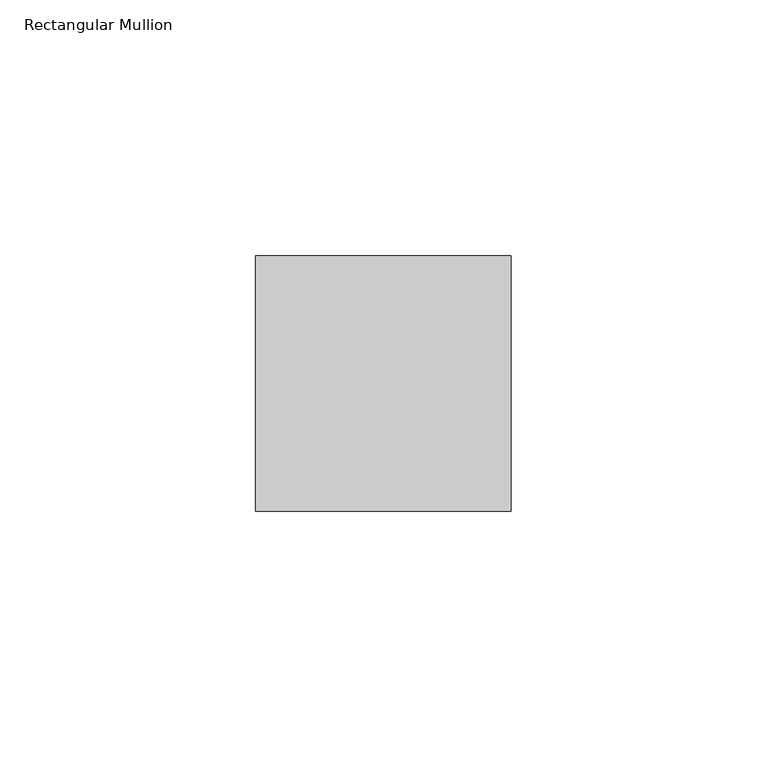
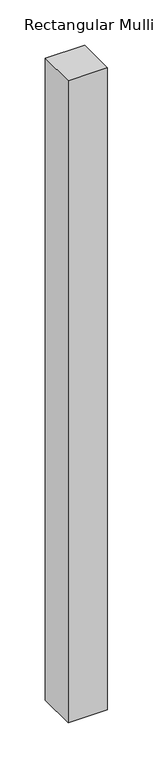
"""IFC4 building model written with IfcOpenShell, lengths in millimetres: member geometry, Rectangular Mullion : Mullion_Curtain Wall_Generic Showcase_50x50mm."""

from ifc_helpers import new_model, si_unit, frame, origin, place, context, project, spatial, polyline, outline, extrude, source, transform, mapped, element, save


def rectangular_mullion_6a6b7c83(model_context):
    return source(origin(), model_context, "Body", "SweptSolid", [
        extrude(outline(polyline([(0.0, 50.0), (0.0, 0.0), (-50.0, 0.0), (-50.0, 50.0), (0.0, 50.0)])), frame((0.0, 0.0, -862.5), z_axis=(0.0, 0.0, 1.0), x_axis=(1.0, 0.0, 0.0)), (0.0, 0.0, 1.0), 862.5),
    ])


if __name__ == "__main__":
    model = new_model("IFC4")
    model_context = context("Model", 3, world=origin())
    ifc_project = project(units=[si_unit("LENGTHUNIT", "METRE", prefix="MILLI")], contexts=[model_context])
    site = spatial("IfcSite", under=ifc_project)
    building = spatial("IfcBuilding", under=site)
    placement = place(None, origin())
    rectangular_mullion_shape = rectangular_mullion_6a6b7c83(model_context)
    element("IfcMember", 1, ObjectType="Rectangular Mullion : Mullion_Curtain Wall_Generic Showcase_50x50mm", at=placement, inside=building, context=model_context, shape_type="MappedRepresentation", body=[
        mapped(rectangular_mullion_shape, transform((0.0, 0.0, 0.0), x_axis=(1.0, 0.0, 0.0), y_axis=(0.0, 1.0, 0.0), z_axis=(0.0, 0.0, 1.0))),
    ])
    save(model, "model.ifc")
